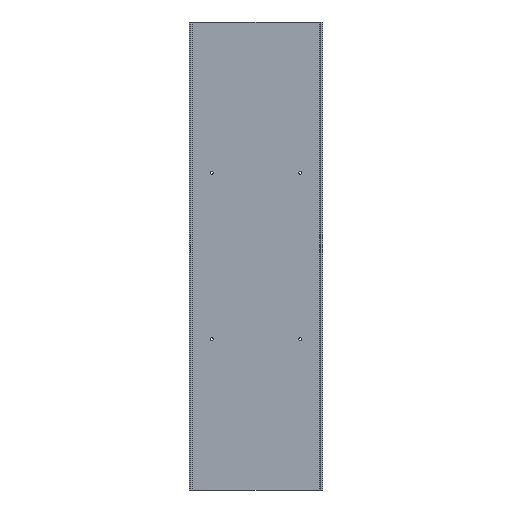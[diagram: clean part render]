
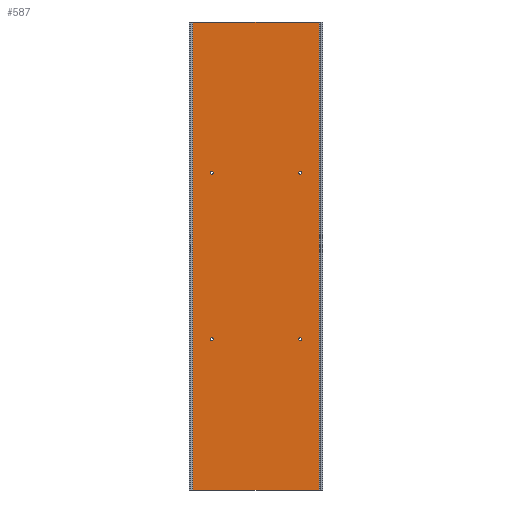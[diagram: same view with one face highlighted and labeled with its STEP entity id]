
A CAD part, front view. The second image highlights one B-rep face of the part: STEP entity #587.
In plain terms, the highlighted planar face has unit normal (0, -1, 0).
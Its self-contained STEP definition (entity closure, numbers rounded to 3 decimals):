
#3 = EDGE_CURVE ( 'NONE', #220, #505, #317, .T. ) ;
#4 = CIRCLE ( 'NONE', #516, 3. ) ;
#8 = CARTESIAN_POINT ( 'NONE',  ( 40., 157., 607. ) ) ;
#13 = VERTEX_POINT ( 'NONE', #798 ) ;
#16 = ORIENTED_EDGE ( 'NONE', *, *, #402, .T. ) ;
#17 = CARTESIAN_POINT ( 'NONE',  ( 210., 157., 613. ) ) ;
#19 = EDGE_CURVE ( 'NONE', #320, #626, #795, .T. ) ;
#20 = CIRCLE ( 'NONE', #57, 3. ) ;
#29 = DIRECTION ( 'NONE',  ( 0., 0., -1. ) ) ;
#30 = ORIENTED_EDGE ( 'NONE', *, *, #629, .F. ) ;
#32 = DIRECTION ( 'NONE',  ( 0., -1., 0. ) ) ;
#36 = CARTESIAN_POINT ( 'NONE',  ( 210., 157., 290. ) ) ;
#48 = DIRECTION ( 'NONE',  ( 0., -1., 0. ) ) ;
#57 = AXIS2_PLACEMENT_3D ( 'NONE', #703, #311, #769 ) ;
#64 = VECTOR ( 'NONE', #558, 1000. ) ;
#72 = DIRECTION ( 'NONE',  ( -1., 0., 0. ) ) ;
#80 = FACE_OUTER_BOUND ( 'NONE', #161, .T. ) ;
#81 = VERTEX_POINT ( 'NONE', #154 ) ;
#85 = EDGE_CURVE ( 'NONE', #702, #81, #409, .T. ) ;
#86 = CIRCLE ( 'NONE', #778, 3. ) ;
#100 = DIRECTION ( 'NONE',  ( 0., 0., -1. ) ) ;
#107 = LINE ( 'NONE', #166, #64 ) ;
#108 = VECTOR ( 'NONE', #530, 1000. ) ;
#127 = EDGE_CURVE ( 'NONE', #81, #702, #571, .T. ) ;
#132 = CARTESIAN_POINT ( 'NONE',  ( 40., 157., 610. ) ) ;
#148 = EDGE_CURVE ( 'NONE', #505, #220, #386, .T. ) ;
#150 = VERTEX_POINT ( 'NONE', #422 ) ;
#151 = AXIS2_PLACEMENT_3D ( 'NONE', #415, #32, #482 ) ;
#154 = CARTESIAN_POINT ( 'NONE',  ( 210., 157., 607. ) ) ;
#161 = EDGE_LOOP ( 'NONE', ( #476, #16, #643, #665 ) ) ;
#166 = CARTESIAN_POINT ( 'NONE',  ( 247., 157., 900. ) ) ;
#172 = PLANE ( 'NONE',  #470 ) ;
#204 = DIRECTION ( 'NONE',  ( 0., 0., -1. ) ) ;
#209 = DIRECTION ( 'NONE',  ( 0., -1., 0. ) ) ;
#220 = VERTEX_POINT ( 'NONE', #244 ) ;
#230 = DIRECTION ( 'NONE',  ( 0., -1., 0. ) ) ;
#233 = ORIENTED_EDGE ( 'NONE', *, *, #148, .F. ) ;
#244 = CARTESIAN_POINT ( 'NONE',  ( 210., 157., 287. ) ) ;
#256 = FACE_BOUND ( 'NONE', #421, .T. ) ;
#263 = EDGE_CURVE ( 'NONE', #433, #13, #20, .T. ) ;
#275 = FACE_BOUND ( 'NONE', #753, .T. ) ;
#280 = VECTOR ( 'NONE', #547, 1000. ) ;
#311 = DIRECTION ( 'NONE',  ( 0., -1., 0. ) ) ;
#317 = CIRCLE ( 'NONE', #343, 3. ) ;
#320 = VERTEX_POINT ( 'NONE', #483 ) ;
#325 = EDGE_LOOP ( 'NONE', ( #233, #387 ) ) ;
#328 = AXIS2_PLACEMENT_3D ( 'NONE', #622, #230, #687 ) ;
#335 = CARTESIAN_POINT ( 'NONE',  ( 40., 157., 290. ) ) ;
#342 = EDGE_LOOP ( 'NONE', ( #30, #603 ) ) ;
#343 = AXIS2_PLACEMENT_3D ( 'NONE', #613, #348, #29 ) ;
#348 = DIRECTION ( 'NONE',  ( 0., -1., 0. ) ) ;
#372 = VERTEX_POINT ( 'NONE', #750 ) ;
#375 = AXIS2_PLACEMENT_3D ( 'NONE', #36, #488, #100 ) ;
#386 = CIRCLE ( 'NONE', #375, 3. ) ;
#387 = ORIENTED_EDGE ( 'NONE', *, *, #3, .F. ) ;
#398 = DIRECTION ( 'NONE',  ( 0., 0., -1. ) ) ;
#402 = EDGE_CURVE ( 'NONE', #150, #320, #107, .T. ) ;
#409 = CIRCLE ( 'NONE', #151, 3. ) ;
#415 = CARTESIAN_POINT ( 'NONE',  ( 210., 157., 610. ) ) ;
#421 = EDGE_LOOP ( 'NONE', ( #793, #582 ) ) ;
#422 = CARTESIAN_POINT ( 'NONE',  ( 247., 157., 0. ) ) ;
#433 = VERTEX_POINT ( 'NONE', #8 ) ;
#437 = CARTESIAN_POINT ( 'NONE',  ( 0., 157., 900. ) ) ;
#457 = CARTESIAN_POINT ( 'NONE',  ( 3., 157., 0. ) ) ;
#466 = ORIENTED_EDGE ( 'NONE', *, *, #686, .F. ) ;
#468 = CARTESIAN_POINT ( 'NONE',  ( 40., 157., 287. ) ) ;
#470 = AXIS2_PLACEMENT_3D ( 'NONE', #437, #48, #501 ) ;
#474 = LINE ( 'NONE', #457, #108 ) ;
#476 = ORIENTED_EDGE ( 'NONE', *, *, #496, .F. ) ;
#481 = CARTESIAN_POINT ( 'NONE',  ( 0., 157., 900. ) ) ;
#482 = DIRECTION ( 'NONE',  ( 0., 0., -1. ) ) ;
#483 = CARTESIAN_POINT ( 'NONE',  ( 247., 157., 900. ) ) ;
#488 = DIRECTION ( 'NONE',  ( 0., -1., 0. ) ) ;
#496 = EDGE_CURVE ( 'NONE', #150, #564, #672, .T. ) ;
#501 = DIRECTION ( 'NONE',  ( 0., 0., -1. ) ) ;
#505 = VERTEX_POINT ( 'NONE', #658 ) ;
#516 = AXIS2_PLACEMENT_3D ( 'NONE', #132, #594, #204 ) ;
#529 = CARTESIAN_POINT ( 'NONE',  ( 0., 157., 0. ) ) ;
#530 = DIRECTION ( 'NONE',  ( 0., 0., -1. ) ) ;
#547 = DIRECTION ( 'NONE',  ( -1., 0., 0. ) ) ;
#558 = DIRECTION ( 'NONE',  ( 0., 0., 1. ) ) ;
#564 = VERTEX_POINT ( 'NONE', #630 ) ;
#571 = CIRCLE ( 'NONE', #328, 3. ) ;
#582 = ORIENTED_EDGE ( 'NONE', *, *, #127, .F. ) ;
#587 = ADVANCED_FACE ( 'NONE', ( #644, #256, #773, #275, #80 ), #172, .T. ) ;
#594 = DIRECTION ( 'NONE',  ( 0., -1., 0. ) ) ;
#599 = CARTESIAN_POINT ( 'NONE',  ( 40., 157., 290. ) ) ;
#603 = ORIENTED_EDGE ( 'NONE', *, *, #263, .F. ) ;
#607 = CIRCLE ( 'NONE', #692, 3. ) ;
#613 = CARTESIAN_POINT ( 'NONE',  ( 210., 157., 290. ) ) ;
#622 = CARTESIAN_POINT ( 'NONE',  ( 210., 157., 610. ) ) ;
#626 = VERTEX_POINT ( 'NONE', #784 ) ;
#629 = EDGE_CURVE ( 'NONE', #13, #433, #4, .T. ) ;
#630 = CARTESIAN_POINT ( 'NONE',  ( 3., 157., 0. ) ) ;
#643 = ORIENTED_EDGE ( 'NONE', *, *, #19, .T. ) ;
#644 = FACE_BOUND ( 'NONE', #342, .T. ) ;
#645 = EDGE_CURVE ( 'NONE', #626, #564, #474, .T. ) ;
#648 = ORIENTED_EDGE ( 'NONE', *, *, #669, .F. ) ;
#654 = VECTOR ( 'NONE', #72, 1000. ) ;
#658 = CARTESIAN_POINT ( 'NONE',  ( 210., 157., 293. ) ) ;
#665 = ORIENTED_EDGE ( 'NONE', *, *, #645, .T. ) ;
#666 = DIRECTION ( 'NONE',  ( 0., 0., -1. ) ) ;
#669 = EDGE_CURVE ( 'NONE', #792, #372, #607, .T. ) ;
#672 = LINE ( 'NONE', #529, #654 ) ;
#686 = EDGE_CURVE ( 'NONE', #372, #792, #86, .T. ) ;
#687 = DIRECTION ( 'NONE',  ( 0., 0., -1. ) ) ;
#692 = AXIS2_PLACEMENT_3D ( 'NONE', #335, #787, #398 ) ;
#702 = VERTEX_POINT ( 'NONE', #17 ) ;
#703 = CARTESIAN_POINT ( 'NONE',  ( 40., 157., 610. ) ) ;
#750 = CARTESIAN_POINT ( 'NONE',  ( 40., 157., 293. ) ) ;
#753 = EDGE_LOOP ( 'NONE', ( #466, #648 ) ) ;
#769 = DIRECTION ( 'NONE',  ( 0., 0., -1. ) ) ;
#773 = FACE_BOUND ( 'NONE', #325, .T. ) ;
#778 = AXIS2_PLACEMENT_3D ( 'NONE', #599, #209, #666 ) ;
#784 = CARTESIAN_POINT ( 'NONE',  ( 3., 157., 900. ) ) ;
#787 = DIRECTION ( 'NONE',  ( 0., -1., 0. ) ) ;
#792 = VERTEX_POINT ( 'NONE', #468 ) ;
#793 = ORIENTED_EDGE ( 'NONE', *, *, #85, .F. ) ;
#795 = LINE ( 'NONE', #481, #280 ) ;
#798 = CARTESIAN_POINT ( 'NONE',  ( 40., 157., 613. ) ) ;
